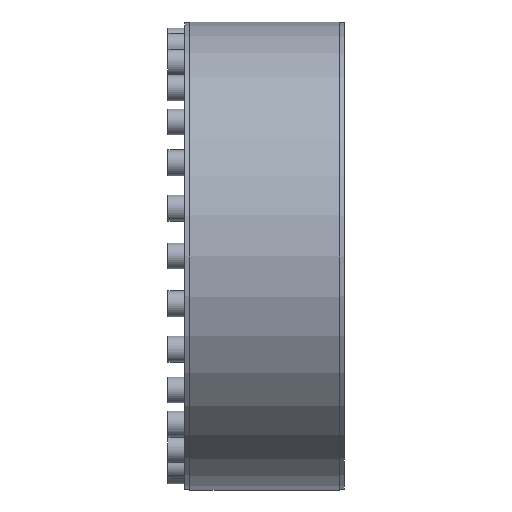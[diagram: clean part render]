
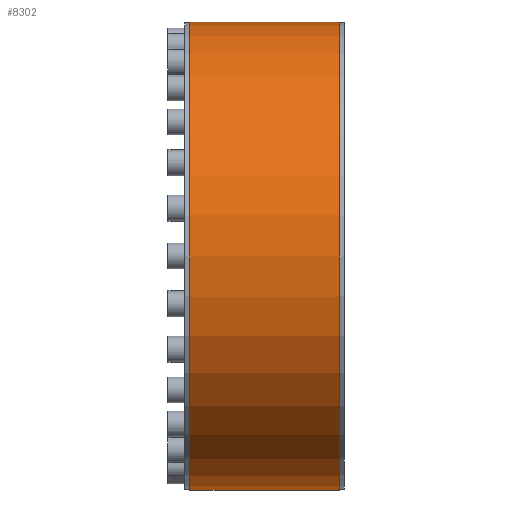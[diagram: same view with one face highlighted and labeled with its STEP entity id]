
A CAD part, left-side view. The second image highlights one B-rep face of the part: STEP entity #8302.
In plain terms, the highlighted cylindrical face has radius 297.5 mm (diameter 595 mm), a partial arc.
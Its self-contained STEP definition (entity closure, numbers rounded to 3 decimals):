
#264 = VERTEX_POINT ( 'NONE', #858 ) ;
#858 = CARTESIAN_POINT ( 'NONE',  ( 0., 95., 297.5 ) ) ;
#958 = CIRCLE ( 'NONE', #3621, 297.5 ) ;
#1305 = DIRECTION ( 'NONE',  ( 0., 0., -1. ) ) ;
#1429 = CARTESIAN_POINT ( 'NONE',  ( 0., 0., 0. ) ) ;
#1525 = CARTESIAN_POINT ( 'NONE',  ( 0., -95., -297.5 ) ) ;
#1763 = ORIENTED_EDGE ( 'NONE', *, *, #9645, .T. ) ;
#1954 = CARTESIAN_POINT ( 'NONE',  ( 0., 0., 297.5 ) ) ;
#2384 = LINE ( 'NONE', #5421, #7910 ) ;
#2739 = CIRCLE ( 'NONE', #7242, 297.5 ) ;
#2784 = DIRECTION ( 'NONE',  ( 0., -1., 0. ) ) ;
#2813 = EDGE_CURVE ( 'NONE', #264, #7620, #5199, .T. ) ;
#2896 = DIRECTION ( 'NONE',  ( 0., -1., 0. ) ) ;
#3212 = ORIENTED_EDGE ( 'NONE', *, *, #9520, .T. ) ;
#3537 = ORIENTED_EDGE ( 'NONE', *, *, #9405, .F. ) ;
#3621 = AXIS2_PLACEMENT_3D ( 'NONE', #8989, #6630, #1305 ) ;
#3764 = CARTESIAN_POINT ( 'NONE',  ( 0., 95., 0. ) ) ;
#3926 = DIRECTION ( 'NONE',  ( 0., -1., 0. ) ) ;
#4065 = VERTEX_POINT ( 'NONE', #1525 ) ;
#4113 = EDGE_LOOP ( 'NONE', ( #9766, #3212, #1763, #3537 ) ) ;
#4541 = DIRECTION ( 'NONE',  ( 0., 0., -1. ) ) ;
#5199 = LINE ( 'NONE', #1954, #5318 ) ;
#5266 = FACE_OUTER_BOUND ( 'NONE', #4113, .T. ) ;
#5318 = VECTOR ( 'NONE', #2784, 1000. ) ;
#5421 = CARTESIAN_POINT ( 'NONE',  ( 0., 0., -297.5 ) ) ;
#5783 = AXIS2_PLACEMENT_3D ( 'NONE', #1429, #2896, #6720 ) ;
#6035 = VERTEX_POINT ( 'NONE', #8315 ) ;
#6346 = CYLINDRICAL_SURFACE ( 'NONE', #5783, 297.5 ) ;
#6630 = DIRECTION ( 'NONE',  ( 0., -1., 0. ) ) ;
#6720 = DIRECTION ( 'NONE',  ( 0., 0., -1. ) ) ;
#7242 = AXIS2_PLACEMENT_3D ( 'NONE', #3764, #9151, #4541 ) ;
#7620 = VERTEX_POINT ( 'NONE', #7852 ) ;
#7852 = CARTESIAN_POINT ( 'NONE',  ( 0., -95., 297.5 ) ) ;
#7910 = VECTOR ( 'NONE', #3926, 1000. ) ;
#8302 = ADVANCED_FACE ( 'NONE', ( #5266 ), #6346, .T. ) ;
#8315 = CARTESIAN_POINT ( 'NONE',  ( 0., 95., -297.5 ) ) ;
#8989 = CARTESIAN_POINT ( 'NONE',  ( 0., -95., 0. ) ) ;
#9151 = DIRECTION ( 'NONE',  ( 0., -1., 0. ) ) ;
#9405 = EDGE_CURVE ( 'NONE', #7620, #4065, #958, .T. ) ;
#9520 = EDGE_CURVE ( 'NONE', #264, #6035, #2739, .T. ) ;
#9645 = EDGE_CURVE ( 'NONE', #6035, #4065, #2384, .T. ) ;
#9766 = ORIENTED_EDGE ( 'NONE', *, *, #2813, .F. ) ;
